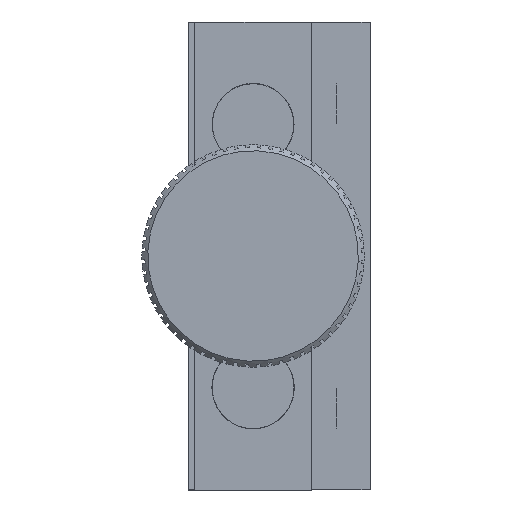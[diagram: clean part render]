
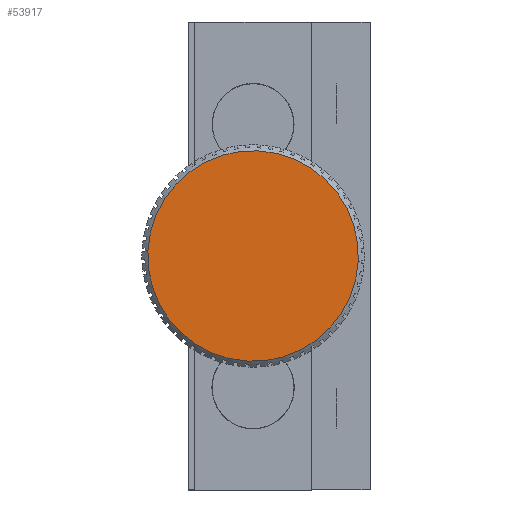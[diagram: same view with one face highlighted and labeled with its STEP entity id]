
A CAD part, left-side view. The second image highlights one B-rep face of the part: STEP entity #53917.
In plain terms, the highlighted planar face has unit normal (-1, 0, 0) as drawn and (1, 0, 0) by its records, which use the part's own axes.
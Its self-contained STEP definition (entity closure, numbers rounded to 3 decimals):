
#3225 = CARTESIAN_POINT ( 'NONE',  ( 81.5, 20., 0. ) ) ;
#6366 = ORIENTED_EDGE ( 'NONE', *, *, #60137, .T. ) ;
#8789 = DIRECTION ( 'NONE',  ( 1., 0., 0. ) ) ;
#13154 = DIRECTION ( 'NONE',  ( 0., 0., 1. ) ) ;
#18207 = FACE_OUTER_BOUND ( 'NONE', #50438, .T. ) ;
#18443 = AXIS2_PLACEMENT_3D ( 'NONE', #36246, #55977, #32689 ) ;
#18675 = CARTESIAN_POINT ( 'NONE',  ( 81.5, 20., 18. ) ) ;
#23527 = CARTESIAN_POINT ( 'NONE',  ( 81.5, 20., -18. ) ) ;
#24735 = EDGE_CURVE ( 'NONE', #45461, #47294, #41980, .T. ) ;
#32689 = DIRECTION ( 'NONE',  ( 0., 0., 1. ) ) ;
#36112 = CARTESIAN_POINT ( 'NONE',  ( 81.5, 20., 0. ) ) ;
#36246 = CARTESIAN_POINT ( 'NONE',  ( 81.5, 20., 0. ) ) ;
#36524 = DIRECTION ( 'NONE',  ( 1., 0., 0. ) ) ;
#37875 = CIRCLE ( 'NONE', #18443, 18. ) ;
#41980 = CIRCLE ( 'NONE', #57844, 18. ) ;
#44946 = AXIS2_PLACEMENT_3D ( 'NONE', #36112, #36524, #45862 ) ;
#45461 = VERTEX_POINT ( 'NONE', #23527 ) ;
#45862 = DIRECTION ( 'NONE',  ( 0., 0., -1. ) ) ;
#47275 = ORIENTED_EDGE ( 'NONE', *, *, #24735, .T. ) ;
#47294 = VERTEX_POINT ( 'NONE', #18675 ) ;
#50438 = EDGE_LOOP ( 'NONE', ( #6366, #47275 ) ) ;
#50844 = PLANE ( 'NONE',  #44946 ) ;
#53917 = ADVANCED_FACE ( 'NONE', ( #18207 ), #50844, .T. ) ;
#55977 = DIRECTION ( 'NONE',  ( 1., 0., 0. ) ) ;
#57844 = AXIS2_PLACEMENT_3D ( 'NONE', #3225, #8789, #13154 ) ;
#60137 = EDGE_CURVE ( 'NONE', #47294, #45461, #37875, .T. ) ;
